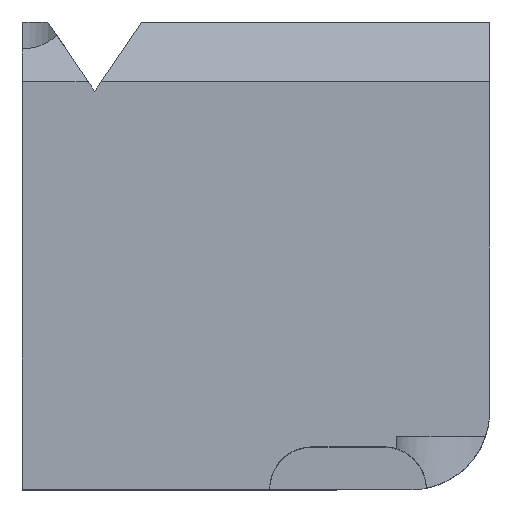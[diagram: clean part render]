
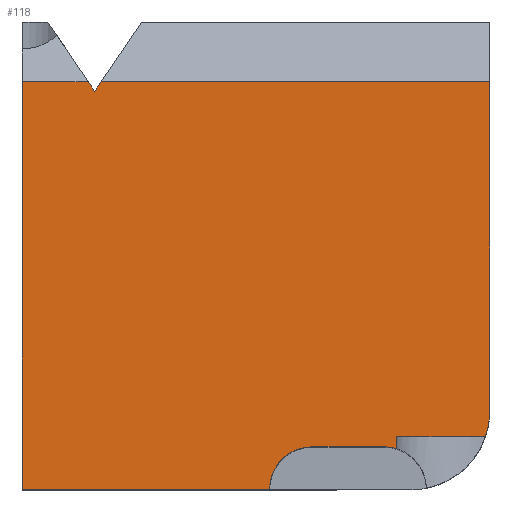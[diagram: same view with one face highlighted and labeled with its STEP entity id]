
A CAD part, top view. The second image highlights one B-rep face of the part: STEP entity #118.
In plain terms, the highlighted planar face has unit normal (0, 0, 1).
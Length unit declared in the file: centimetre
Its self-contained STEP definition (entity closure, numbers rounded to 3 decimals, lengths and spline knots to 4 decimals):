
#13 = CARTESIAN_POINT ( 'NONE',  ( 990.9184, 112.2541, 1000. ) ) ;
#60 = CARTESIAN_POINT ( 'NONE',  ( 0., 0., 1000. ) ) ;
#68 = DIRECTION ( 'NONE',  ( 1., 0., 0. ) ) ;
#84 = VERTEX_POINT ( 'NONE', #580 ) ;
#85 = CARTESIAN_POINT ( 'NONE',  ( 154.7598, 851.53, 1000. ) ) ;
#101 = DIRECTION ( 'NONE',  ( 0., -1., 0. ) ) ;
#102 = DIRECTION ( 'NONE',  ( -1., 0., 0. ) ) ;
#104 = LINE ( 'NONE', #870, #618 ) ;
#118 = ADVANCED_FACE ( 'NONE', ( #419 ), #1031, .T. ) ;
#123 = EDGE_LOOP ( 'NONE', ( #409, #527, #202, #367, #983, #173, #325, #458, #768, #285, #176, #420, #717 ) ) ;
#132 = DIRECTION ( 'NONE',  ( 1., 0., 0. ) ) ;
#153 = EDGE_CURVE ( 'NONE', #1050, #977, #536, .T. ) ;
#155 = DIRECTION ( 'NONE',  ( 0., 0., 1. ) ) ;
#173 = ORIENTED_EDGE ( 'NONE', *, *, #1048, .F. ) ;
#176 = ORIENTED_EDGE ( 'NONE', *, *, #1001, .F. ) ;
#177 = CARTESIAN_POINT ( 'NONE',  ( 529.16, 0., 1000. ) ) ;
#193 = VERTEX_POINT ( 'NONE', #973 ) ;
#202 = ORIENTED_EDGE ( 'NONE', *, *, #819, .T. ) ;
#208 = DIRECTION ( 'NONE',  ( 0., 0., 1. ) ) ;
#209 = DIRECTION ( 'NONE',  ( 1., 0., 0. ) ) ;
#229 = CARTESIAN_POINT ( 'NONE',  ( 0., 872.211, 1000. ) ) ;
#244 = CIRCLE ( 'NONE', #378, 90.6205 ) ;
#273 = DIRECTION ( 'NONE',  ( -1., 0., 0. ) ) ;
#285 = ORIENTED_EDGE ( 'NONE', *, *, #550, .T. ) ;
#302 = DIRECTION ( 'NONE',  ( 0.559, -0.829, 0. ) ) ;
#307 = LINE ( 'NONE', #1004, #542 ) ;
#317 = CARTESIAN_POINT ( 'NONE',  ( 54.5646, 1000., 1000. ) ) ;
#320 = CARTESIAN_POINT ( 'NONE',  ( 801.2238, 112.2541, 1000. ) ) ;
#321 = DIRECTION ( 'NONE',  ( 0., 0., 1. ) ) ;
#325 = ORIENTED_EDGE ( 'NONE', *, *, #337, .F. ) ;
#336 = VECTOR ( 'NONE', #101, 100. ) ;
#337 = EDGE_CURVE ( 'NONE', #1050, #1118, #999, .T. ) ;
#349 = DIRECTION ( 'NONE',  ( 0., 1., 0. ) ) ;
#362 = AXIS2_PLACEMENT_3D ( 'NONE', #946, #155, #513 ) ;
#367 = ORIENTED_EDGE ( 'NONE', *, *, #1070, .T. ) ;
#370 = VERTEX_POINT ( 'NONE', #1094 ) ;
#374 = LINE ( 'NONE', #463, #689 ) ;
#378 = AXIS2_PLACEMENT_3D ( 'NONE', #503, #775, #68 ) ;
#380 = VERTEX_POINT ( 'NONE', #483 ) ;
#390 = EDGE_CURVE ( 'NONE', #380, #538, #920, .T. ) ;
#394 = VECTOR ( 'NONE', #422, 100. ) ;
#396 = CARTESIAN_POINT ( 'NONE',  ( 774.1177, 90.6205, 1000. ) ) ;
#406 = DIRECTION ( 'NONE',  ( 1., 0., 0. ) ) ;
#409 = ORIENTED_EDGE ( 'NONE', *, *, #969, .F. ) ;
#411 = EDGE_CURVE ( 'NONE', #881, #464, #687, .T. ) ;
#419 = FACE_OUTER_BOUND ( 'NONE', #123, .T. ) ;
#420 = ORIENTED_EDGE ( 'NONE', *, *, #1028, .F. ) ;
#422 = DIRECTION ( 'NONE',  ( 1., 0., 0. ) ) ;
#432 = AXIS2_PLACEMENT_3D ( 'NONE', #765, #321, #209 ) ;
#454 = EDGE_CURVE ( 'NONE', #370, #1023, #307, .T. ) ;
#458 = ORIENTED_EDGE ( 'NONE', *, *, #153, .T. ) ;
#463 = CARTESIAN_POINT ( 'NONE',  ( 1000., 1000., 1000. ) ) ;
#464 = VERTEX_POINT ( 'NONE', #396 ) ;
#476 = CARTESIAN_POINT ( 'NONE',  ( 833.5101, 166.4899, 1000. ) ) ;
#483 = CARTESIAN_POINT ( 'NONE',  ( 1000., 872.211, 1000. ) ) ;
#503 = CARTESIAN_POINT ( 'NONE',  ( 619.7805, 0., 1000. ) ) ;
#513 = DIRECTION ( 'NONE',  ( 1., 0., 0. ) ) ;
#520 = CARTESIAN_POINT ( 'NONE',  ( 0., 872.211, 1000. ) ) ;
#525 = VECTOR ( 'NONE', #964, 100. ) ;
#527 = ORIENTED_EDGE ( 'NONE', *, *, #454, .T. ) ;
#536 = LINE ( 'NONE', #989, #1095 ) ;
#538 = VERTEX_POINT ( 'NONE', #944 ) ;
#542 = VECTOR ( 'NONE', #132, 100. ) ;
#544 = AXIS2_PLACEMENT_3D ( 'NONE', #476, #208, #406 ) ;
#550 = EDGE_CURVE ( 'NONE', #726, #808, #1043, .T. ) ;
#580 = CARTESIAN_POINT ( 'NONE',  ( 1000., 166.4899, 1000. ) ) ;
#618 = VECTOR ( 'NONE', #273, 100. ) ;
#632 = LINE ( 'NONE', #978, #336 ) ;
#687 = CIRCLE ( 'NONE', #432, 90.6205 ) ;
#689 = VECTOR ( 'NONE', #349, 100. ) ;
#717 = ORIENTED_EDGE ( 'NONE', *, *, #411, .F. ) ;
#726 = VERTEX_POINT ( 'NONE', #798 ) ;
#765 = CARTESIAN_POINT ( 'NONE',  ( 774.1177, 0., 1000. ) ) ;
#768 = ORIENTED_EDGE ( 'NONE', *, *, #786, .T. ) ;
#775 = DIRECTION ( 'NONE',  ( 0., 0., 1. ) ) ;
#786 = EDGE_CURVE ( 'NONE', #977, #726, #632, .T. ) ;
#798 = CARTESIAN_POINT ( 'NONE',  ( 0., 0., 1000. ) ) ;
#802 = LINE ( 'NONE', #1069, #525 ) ;
#808 = VERTEX_POINT ( 'NONE', #177 ) ;
#819 = EDGE_CURVE ( 'NONE', #1023, #84, #835, .T. ) ;
#835 = CIRCLE ( 'NONE', #544, 166.4899 ) ;
#850 = LINE ( 'NONE', #320, #1002 ) ;
#855 = DIRECTION ( 'NONE',  ( 0., -1., 0. ) ) ;
#870 = CARTESIAN_POINT ( 'NONE',  ( 774.1177, 90.6205, 1000. ) ) ;
#881 = VERTEX_POINT ( 'NONE', #1089 ) ;
#912 = VECTOR ( 'NONE', #302, 100. ) ;
#920 = LINE ( 'NONE', #229, #1075 ) ;
#944 = CARTESIAN_POINT ( 'NONE',  ( 168.7164, 872.211, 1000. ) ) ;
#946 = CARTESIAN_POINT ( 'NONE',  ( 0., 0., 1000. ) ) ;
#964 = DIRECTION ( 'NONE',  ( 0.559, 0.829, 0. ) ) ;
#969 = EDGE_CURVE ( 'NONE', #370, #881, #850, .T. ) ;
#970 = CARTESIAN_POINT ( 'NONE',  ( 140.8032, 872.211, 1000. ) ) ;
#973 = CARTESIAN_POINT ( 'NONE',  ( 619.7805, 90.6205, 1000. ) ) ;
#977 = VERTEX_POINT ( 'NONE', #520 ) ;
#978 = CARTESIAN_POINT ( 'NONE',  ( 0., 1000., 1000. ) ) ;
#983 = ORIENTED_EDGE ( 'NONE', *, *, #390, .T. ) ;
#989 = CARTESIAN_POINT ( 'NONE',  ( 0., 872.211, 1000. ) ) ;
#999 = LINE ( 'NONE', #317, #912 ) ;
#1001 = EDGE_CURVE ( 'NONE', #193, #808, #244, .T. ) ;
#1002 = VECTOR ( 'NONE', #855, 100. ) ;
#1004 = CARTESIAN_POINT ( 'NONE',  ( 0., 112.2541, 1000. ) ) ;
#1023 = VERTEX_POINT ( 'NONE', #13 ) ;
#1028 = EDGE_CURVE ( 'NONE', #464, #193, #104, .T. ) ;
#1031 = PLANE ( 'NONE',  #362 ) ;
#1043 = LINE ( 'NONE', #60, #394 ) ;
#1048 = EDGE_CURVE ( 'NONE', #1118, #538, #802, .T. ) ;
#1050 = VERTEX_POINT ( 'NONE', #970 ) ;
#1069 = CARTESIAN_POINT ( 'NONE',  ( 154.7598, 851.53, 1000. ) ) ;
#1070 = EDGE_CURVE ( 'NONE', #84, #380, #374, .T. ) ;
#1075 = VECTOR ( 'NONE', #1110, 100. ) ;
#1089 = CARTESIAN_POINT ( 'NONE',  ( 801.2238, 86.4716, 1000. ) ) ;
#1094 = CARTESIAN_POINT ( 'NONE',  ( 801.2238, 112.2541, 1000. ) ) ;
#1095 = VECTOR ( 'NONE', #102, 100. ) ;
#1110 = DIRECTION ( 'NONE',  ( -1., 0., 0. ) ) ;
#1118 = VERTEX_POINT ( 'NONE', #85 ) ;
